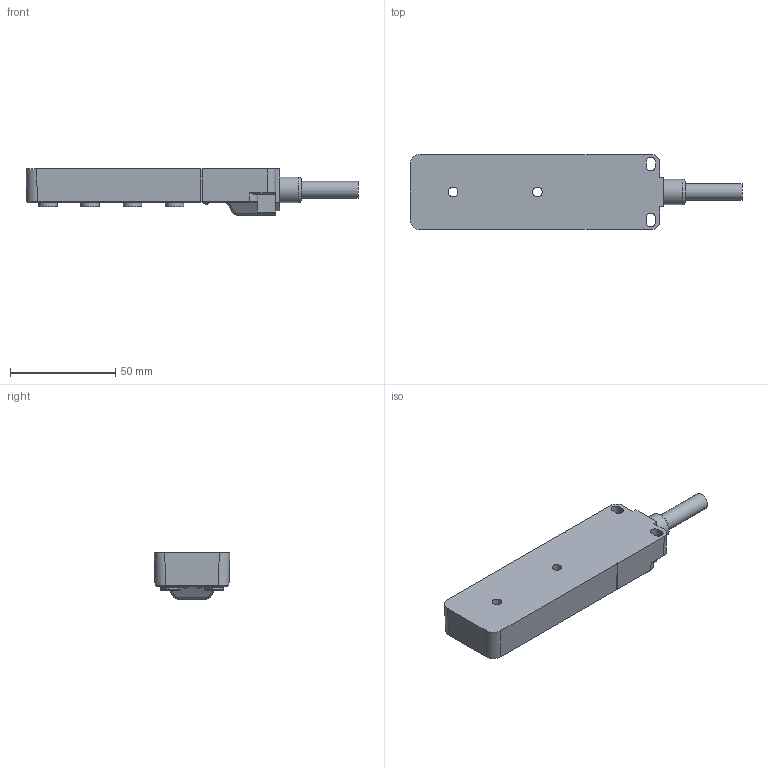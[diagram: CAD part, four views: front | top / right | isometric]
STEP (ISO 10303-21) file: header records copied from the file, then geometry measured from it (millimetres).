
FILE_DESCRIPTION(/* description */ (''),/* implementation_level */ '2;1');
FILE_NAME(/* name */ 'D8M8-3S-L.stp',/* time_stamp */ '2018-04-18T13:26:50+08:00',/* author */ (''),/* organization */ (''),/* preprocessor_version */ 'ST-DEVELOPER v16',/* originating_system */ 'SIEMENS PLM Software NX 10.0',/* authorisation */ '');
FILE_SCHEMA (('AP203_CONFIGURATION_CONTROLLED_3D_DESIGN_OF_MECHANICAL_PARTS_AND_ASSEMBLIES_MIM_LF { 1 0 10303 403 2 1 2}'));
Length unit declared in the file: millimetre
Products named in the file (1): 9147259C92A3cyyq
Bounding box: 157.42 x 35.84 x 22 mm (x, y, z)
Volume: 69557.9 mm3; surface area: 35463.5 mm2
Topology: 11 solids, 15 shells, 882 faces, 2220 edges, 1460 vertices
Faces by surface type: plane 542, cylinder 187, cone 56, bspline 48, extrusion 23, torus 17, sphere 9
Full cylindrical faces by diameter (mm): 1 x24, 1.1 x24, 1.5 x24, 4.5 x2, 6.9 x2, 8 x1, 9 x8, 12 x1
Entity records: 36730 total; most frequent: CARTESIAN_POINT 16633, ORIENTED_EDGE 3972, DIRECTION 3913, EDGE_CURVE 1986, VERTEX_POINT 1382, VECTOR 1333, LINE 1310, AXIS2_PLACEMENT_3D 1290
